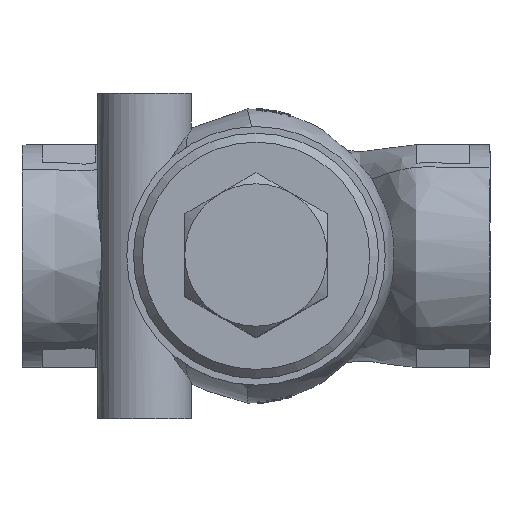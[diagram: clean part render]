
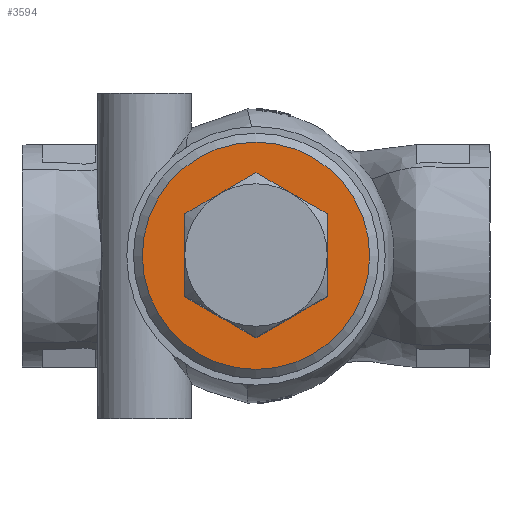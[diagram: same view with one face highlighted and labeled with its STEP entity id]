
A CAD part, top view. The second image highlights one B-rep face of the part: STEP entity #3594.
In plain terms, the highlighted planar face has unit normal (0, 0, 1).
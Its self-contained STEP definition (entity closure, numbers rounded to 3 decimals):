
#3552=CARTESIAN_POINT('',(25.5,0.,49.5));
#3553=VERTEX_POINT('',#3552);
#3554=CARTESIAN_POINT('',(0.,0.0,49.5));
#3555=DIRECTION('',(0.0,0.0,-1.0));
#3556=DIRECTION('',(-1.0,0.0,0.0));
#3557=AXIS2_PLACEMENT_3D('',#3554,#3555,#3556);
#3558=CIRCLE('',#3557,25.5);
#3559=EDGE_CURVE('',#3553,#3553,#3558,.T.);
#3575=CARTESIAN_POINT('',(21.75,0.0,49.5));
#3576=DIRECTION('',(0.0,0.0,1.0));
#3577=DIRECTION('',(-1.0,0.0,0.0));
#3578=AXIS2_PLACEMENT_3D('',#3575,#3576,#3577);
#3579=PLANE('',#3578);
#3580=ORIENTED_EDGE('',*,*,#3559,.F.);
#3581=EDGE_LOOP('',(#3580));
#3582=FACE_OUTER_BOUND('',#3581,.T.);
#3583=CARTESIAN_POINT('',(16.,0.0,49.5));
#3584=VERTEX_POINT('',#3583);
#3585=CARTESIAN_POINT('',(0.,0.0,49.5));
#3586=DIRECTION('',(0.0,0.0,-1.0));
#3587=DIRECTION('',(1.0,0.0,0.0));
#3588=AXIS2_PLACEMENT_3D('',#3585,#3586,#3587);
#3589=CIRCLE('',#3588,16.);
#3590=EDGE_CURVE('',#3584,#3584,#3589,.T.);
#3591=ORIENTED_EDGE('',*,*,#3590,.T.);
#3592=EDGE_LOOP('',(#3591));
#3593=FACE_BOUND('',#3592,.T.);
#3594=ADVANCED_FACE('',(#3582,#3593),#3579,.T.);
